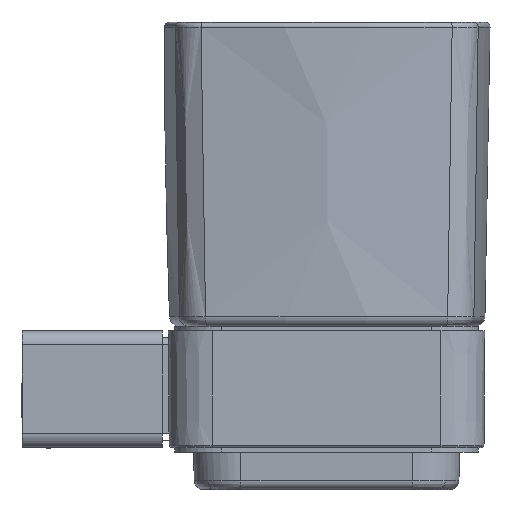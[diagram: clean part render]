
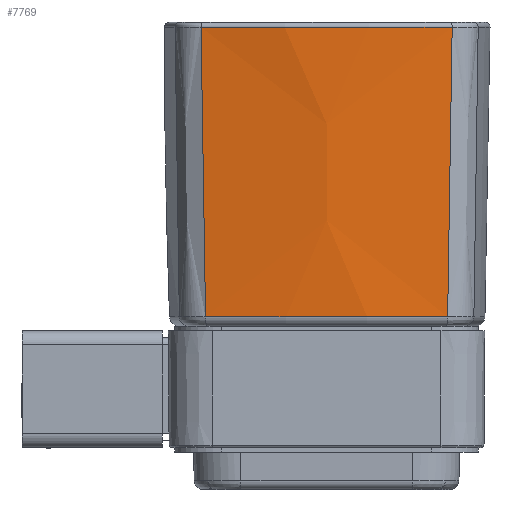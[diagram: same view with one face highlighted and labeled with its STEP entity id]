
A CAD part, left-side view. The second image highlights one B-rep face of the part: STEP entity #7769.
In plain terms, the highlighted conical face has half-angle 1 degrees and reference radius 144 mm.
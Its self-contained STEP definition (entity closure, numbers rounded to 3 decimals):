
#15 = CARTESIAN_POINT ( 'NONE',  ( -56.771, -62.125, 15.465 ) ) ;
#195 = AXIS2_PLACEMENT_3D ( 'NONE', #11962, #6723, #6592 ) ;
#207 = CARTESIAN_POINT ( 'NONE',  ( -57.692, -63.09, 77.483 ) ) ;
#339 = B_SPLINE_CURVE_WITH_KNOTS ( 'NONE', 3,
 ( #6382, #11910, #12974, #9625, #11860, #5421, #13018 ),
 .UNSPECIFIED., .F., .F.,
 ( 4, 3, 4 ),
 ( 0.001, 0.032, 0.063 ),
 .UNSPECIFIED. ) ;
#990 = EDGE_CURVE ( 'NONE', #13577, #11079, #6973, .T. ) ;
#1351 = CONICAL_SURFACE ( 'NONE', #3591, 144., 0.017 ) ;
#1457 = ORIENTED_EDGE ( 'NONE', *, *, #3419, .T. ) ;
#1498 = CARTESIAN_POINT ( 'NONE',  ( 83.759, -36.209, 15.465 ) ) ;
#3419 = EDGE_CURVE ( 'NONE', #11079, #3619, #339, .T. ) ;
#3591 = AXIS2_PLACEMENT_3D ( 'NONE', #4601, #7913, #8945 ) ;
#3619 = VERTEX_POINT ( 'NONE', #8772 ) ;
#4414 = CARTESIAN_POINT ( 'NONE',  ( -57.692, -63.09, 77.483 ) ) ;
#4601 = CARTESIAN_POINT ( 'NONE',  ( 83.759, -36.209, 78.5 ) ) ;
#4692 = AXIS2_PLACEMENT_3D ( 'NONE', #1498, #6813, #6764 ) ;
#5421 = CARTESIAN_POINT ( 'NONE',  ( -56.923, -10.133, 25.661 ) ) ;
#5598 = CARTESIAN_POINT ( 'NONE',  ( -57.381, -62.765, 56.529 ) ) ;
#5925 = CIRCLE ( 'NONE', #4692, 142.9 ) ;
#6013 = EDGE_CURVE ( 'NONE', #3619, #11914, #5925, .T. ) ;
#6225 = FACE_OUTER_BOUND ( 'NONE', #6442, .T. ) ;
#6382 = CARTESIAN_POINT ( 'NONE',  ( -57.692, -9.327, 77.483 ) ) ;
#6442 = EDGE_LOOP ( 'NONE', ( #1457, #10774, #7851, #13312 ) ) ;
#6592 = DIRECTION ( 'NONE',  ( 0., 1., 0. ) ) ;
#6723 = DIRECTION ( 'NONE',  ( 0., 0., -1. ) ) ;
#6764 = DIRECTION ( 'NONE',  ( 0., -1., 0. ) ) ;
#6813 = DIRECTION ( 'NONE',  ( 0., 0., 1. ) ) ;
#6914 = B_SPLINE_CURVE_WITH_KNOTS ( 'NONE', 3,
 ( #15, #12962, #9916, #7546, #5598, #9769, #207 ),
 .UNSPECIFIED., .F., .F.,
 ( 4, 3, 4 ),
 ( 0.002, 0.033, 0.064 ),
 .UNSPECIFIED. ) ;
#6973 = CIRCLE ( 'NONE', #195, 143.982 ) ;
#7546 = CARTESIAN_POINT ( 'NONE',  ( -57.226, -62.602, 46.052 ) ) ;
#7769 = ADVANCED_FACE ( 'NONE', ( #6225 ), #1351, .T. ) ;
#7851 = ORIENTED_EDGE ( 'NONE', *, *, #8075, .T. ) ;
#7913 = DIRECTION ( 'NONE',  ( 0., 0., 1. ) ) ;
#8075 = EDGE_CURVE ( 'NONE', #11914, #13577, #6914, .T. ) ;
#8772 = CARTESIAN_POINT ( 'NONE',  ( -56.771, -10.292, 15.465 ) ) ;
#8945 = DIRECTION ( 'NONE',  ( 0., -1., 0. ) ) ;
#9196 = CARTESIAN_POINT ( 'NONE',  ( -56.771, -62.125, 15.465 ) ) ;
#9625 = CARTESIAN_POINT ( 'NONE',  ( -57.226, -9.816, 46.052 ) ) ;
#9769 = CARTESIAN_POINT ( 'NONE',  ( -57.536, -62.928, 67.006 ) ) ;
#9916 = CARTESIAN_POINT ( 'NONE',  ( -57.074, -62.443, 35.856 ) ) ;
#10660 = CARTESIAN_POINT ( 'NONE',  ( -57.692, -9.327, 77.483 ) ) ;
#10774 = ORIENTED_EDGE ( 'NONE', *, *, #6013, .T. ) ;
#11079 = VERTEX_POINT ( 'NONE', #10660 ) ;
#11860 = CARTESIAN_POINT ( 'NONE',  ( -57.074, -9.975, 35.856 ) ) ;
#11910 = CARTESIAN_POINT ( 'NONE',  ( -57.536, -9.49, 67.006 ) ) ;
#11914 = VERTEX_POINT ( 'NONE', #9196 ) ;
#11962 = CARTESIAN_POINT ( 'NONE',  ( 83.759, -36.209, 77.483 ) ) ;
#12962 = CARTESIAN_POINT ( 'NONE',  ( -56.923, -62.284, 25.661 ) ) ;
#12974 = CARTESIAN_POINT ( 'NONE',  ( -57.381, -9.653, 56.529 ) ) ;
#13018 = CARTESIAN_POINT ( 'NONE',  ( -56.771, -10.292, 15.465 ) ) ;
#13312 = ORIENTED_EDGE ( 'NONE', *, *, #990, .T. ) ;
#13577 = VERTEX_POINT ( 'NONE', #4414 ) ;
